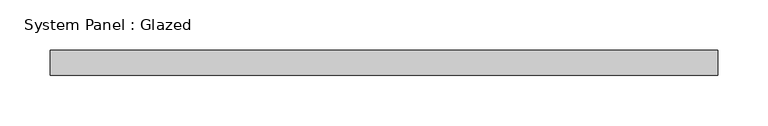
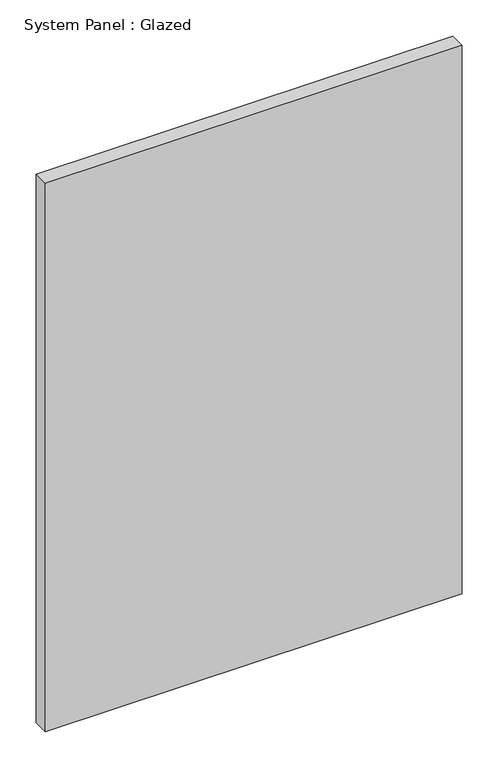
"""IFC4 building model written with IfcOpenShell, lengths in millimetres: plate geometry, System Panel : Glazed."""

from ifc_helpers import new_model, si_unit, origin, origin_with_axes, place, context, project, spatial, polyline, outline, extrude, source, transform, mapped, element, save


def system_panel_glazed_5130c531(model_context):
    return source(origin(), model_context, "Body", "SweptSolid", [
        extrude(outline(polyline([(332.5, 24.5), (-332.5, 24.5), (-332.5, 49.5), (332.5, 49.5), (332.5, 24.5)])), origin_with_axes(), (0.0, 0.0, 1.0), 925.0),
    ])


if __name__ == "__main__":
    model = new_model("IFC4")
    model_context = context("Model", 3, world=origin())
    ifc_project = project(units=[si_unit("LENGTHUNIT", "METRE", prefix="MILLI")], contexts=[model_context])
    site = spatial("IfcSite", under=ifc_project)
    building = spatial("IfcBuilding", under=site)
    placement = place(None, origin())
    system_panel_glazed_shape = system_panel_glazed_5130c531(model_context)
    element("IfcPlate", 1, ObjectType="System Panel : Glazed", at=placement, inside=building, context=model_context, shape_type="MappedRepresentation", body=[
        mapped(system_panel_glazed_shape, transform((0.0, 0.0, 0.0), x_axis=(1.0, 0.0, 0.0), y_axis=(0.0, 1.0, 0.0), z_axis=(0.0, 0.0, 1.0))),
    ])
    save(model, "model.ifc")
